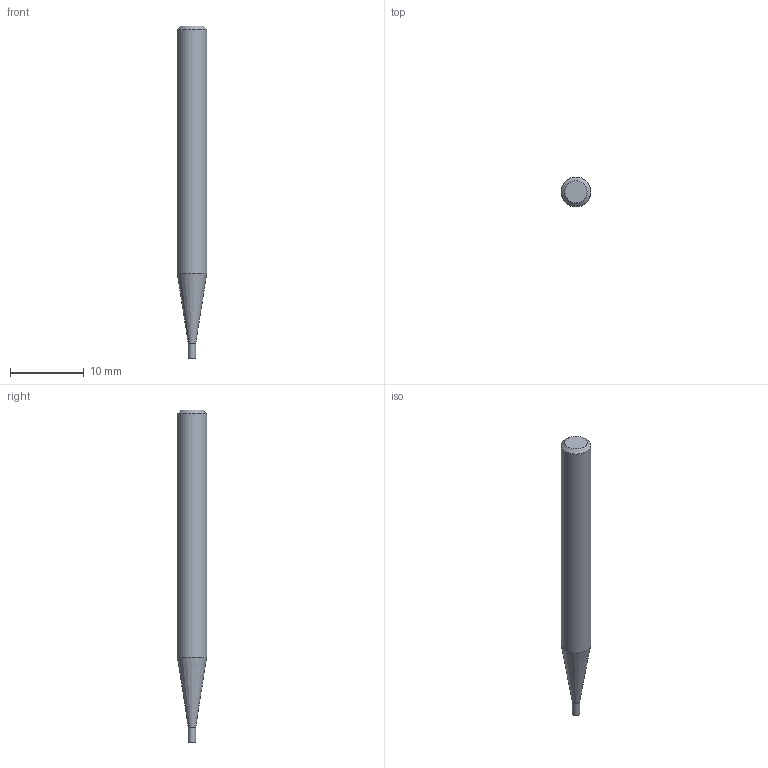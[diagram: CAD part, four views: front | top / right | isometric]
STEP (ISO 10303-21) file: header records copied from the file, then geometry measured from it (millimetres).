
FILE_DESCRIPTION((''),'2;1');
FILE_NAME('C:\Users\nsx150\AppData\Local\Temp\Mastercam 2021\W9Z147XDNF\TEMP.step','2021-04-08T14:29:49',(''),(''),'STEP Write','Mastercam 2021 ... CNC Software, Inc.','');
FILE_SCHEMA(('AUTOMOTIVE_DESIGN'));
Length unit declared in the file: millimetre
Products named in the file (1): None
Bounding box: 4 x 4 x 45 mm (x, y, z)
Volume: 473.5 mm3; surface area: 513.9 mm2
Topology: 2 solids, 2 shells, 8 faces, 10 edges, 6 vertices
Faces by surface type: plane 4, cylinder 2, cone 2
Full cylindrical faces by diameter (mm): 1 x1, 4 x1
Entity records: 190 total; most frequent: DIRECTION 32, CARTESIAN_POINT 22, AXIS2_PLACEMENT_3D 16, ORIENTED_EDGE 12, EDGE_LOOP 12, STYLED_ITEM 11, ADVANCED_FACE 8, VERTEX_POINT 6
